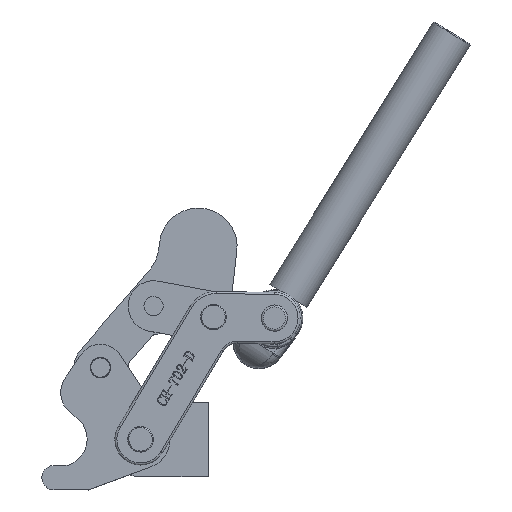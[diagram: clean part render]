
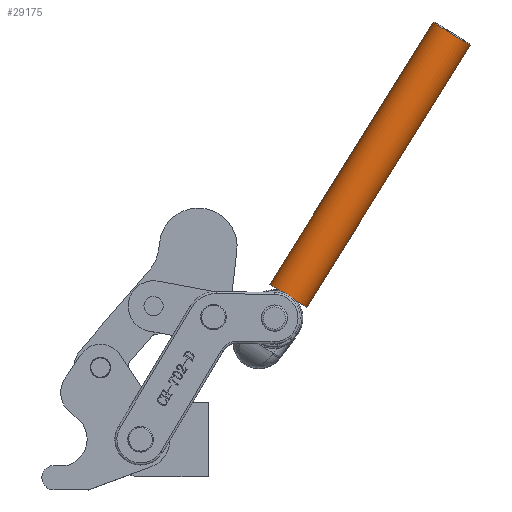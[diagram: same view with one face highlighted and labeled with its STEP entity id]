
A CAD part, top view. The second image highlights one B-rep face of the part: STEP entity #29175.
In plain terms, the highlighted cylindrical face has radius 10.75 mm (diameter 21.5 mm), a full revolution.
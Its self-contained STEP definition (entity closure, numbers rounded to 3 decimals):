
#761=B_SPLINE_CURVE_WITH_KNOTS('',3,(#55389,#55390,#55391,#55392,#55393,
#55394,#55395,#55396,#55397,#55398,#55399,#55400,#55401,#55402),
 .UNSPECIFIED.,.F.,.F.,(4,2,2,2,2,2,4),(-0.427,-0.384,
-0.298,-0.245,-0.197,-0.134,
-0.04),.UNSPECIFIED.);
#762=B_SPLINE_CURVE_WITH_KNOTS('',3,(#55404,#55405,#55406,#55407,#55408,
#55409),.UNSPECIFIED.,.F.,.F.,(4,2,4),(5.418,5.435,
5.58),.UNSPECIFIED.);
#763=B_SPLINE_CURVE_WITH_KNOTS('',3,(#55413,#55414,#55415,#55416,#55417,
#55418),.UNSPECIFIED.,.F.,.F.,(4,2,4),(4.877,5.022,
5.039),.UNSPECIFIED.);
#764=B_SPLINE_CURVE_WITH_KNOTS('',3,(#55420,#55421,#55422,#55423,#55424,
#55425,#55426,#55427),.UNSPECIFIED.,.F.,.F.,(4,2,2,4),(0.04,
0.134,0.197,0.233),.UNSPECIFIED.);
#765=B_SPLINE_CURVE_WITH_KNOTS('',3,(#55430,#55431,#55432,#55433,#55434,
#55435,#55436,#55437,#55438,#55439),.UNSPECIFIED.,.F.,.F.,(4,2,2,2,4),(0.233,
0.245,0.298,0.384,0.427),
 .UNSPECIFIED.);
#766=B_SPLINE_CURVE_WITH_KNOTS('',3,(#55441,#55442,#55443,#55444,#55445,
#55446),.UNSPECIFIED.,.F.,.F.,(4,2,4),(-1.474,-1.456,
-1.312),.UNSPECIFIED.);
#767=B_SPLINE_CURVE_WITH_KNOTS('',3,(#55449,#55450,#55451,#55452,#55453,
#55454),.UNSPECIFIED.,.F.,.F.,(4,2,4),(-2.015,-1.87,
-1.853),.UNSPECIFIED.);
#3067=FACE_OUTER_BOUND('',#4642,.T.);
#4642=EDGE_LOOP('',(#25142,#25143,#25144,#25145,#25146,#25147,#25148,#25149,
#25150,#25151,#25152,#25153,#25154));
#7130=LINE('',#55428,#10035);
#10035=VECTOR('',#37173,10.75);
#11523=CIRCLE('',#31370,10.75);
#11524=CIRCLE('',#31371,10.75);
#11531=CIRCLE('',#31380,10.75);
#11532=CIRCLE('',#31381,10.75);
#13896=VERTEX_POINT('',#55367);
#13897=VERTEX_POINT('',#55368);
#13904=VERTEX_POINT('',#55387);
#13905=VERTEX_POINT('',#55388);
#13906=VERTEX_POINT('',#55403);
#13907=VERTEX_POINT('',#55410);
#13908=VERTEX_POINT('',#55412);
#13909=VERTEX_POINT('',#55419);
#13910=VERTEX_POINT('',#55429);
#13911=VERTEX_POINT('',#55440);
#13912=VERTEX_POINT('',#55447);
#17788=EDGE_CURVE('',#13896,#13897,#11523,.T.);
#17789=EDGE_CURVE('',#13897,#13896,#11524,.T.);
#17798=EDGE_CURVE('',#13904,#13905,#761,.T.);
#17799=EDGE_CURVE('',#13904,#13906,#762,.T.);
#17800=EDGE_CURVE('',#13906,#13907,#11531,.T.);
#17801=EDGE_CURVE('',#13907,#13908,#763,.T.);
#17802=EDGE_CURVE('',#13909,#13908,#764,.F.);
#17803=EDGE_CURVE('',#13909,#13897,#7130,.T.);
#17804=EDGE_CURVE('',#13910,#13909,#765,.F.);
#17805=EDGE_CURVE('',#13910,#13911,#766,.T.);
#17806=EDGE_CURVE('',#13911,#13912,#11532,.T.);
#17807=EDGE_CURVE('',#13912,#13905,#767,.T.);
#25142=ORIENTED_EDGE('',*,*,#17798,.F.);
#25143=ORIENTED_EDGE('',*,*,#17799,.T.);
#25144=ORIENTED_EDGE('',*,*,#17800,.T.);
#25145=ORIENTED_EDGE('',*,*,#17801,.T.);
#25146=ORIENTED_EDGE('',*,*,#17802,.F.);
#25147=ORIENTED_EDGE('',*,*,#17803,.T.);
#25148=ORIENTED_EDGE('',*,*,#17789,.T.);
#25149=ORIENTED_EDGE('',*,*,#17788,.T.);
#25150=ORIENTED_EDGE('',*,*,#17803,.F.);
#25151=ORIENTED_EDGE('',*,*,#17804,.F.);
#25152=ORIENTED_EDGE('',*,*,#17805,.T.);
#25153=ORIENTED_EDGE('',*,*,#17806,.T.);
#25154=ORIENTED_EDGE('',*,*,#17807,.T.);
#28110=CYLINDRICAL_SURFACE('',#31379,10.75);
#29175=ADVANCED_FACE('',(#3067),#28110,.T.);
#31370=AXIS2_PLACEMENT_3D('',#55369,#37149,#37150);
#31371=AXIS2_PLACEMENT_3D('',#55370,#37151,#37152);
#31379=AXIS2_PLACEMENT_3D('',#55386,#37169,#37170);
#31380=AXIS2_PLACEMENT_3D('',#55411,#37171,#37172);
#31381=AXIS2_PLACEMENT_3D('',#55448,#37174,#37175);
#37149=DIRECTION('center_axis',(0.,-1.,0.));
#37150=DIRECTION('ref_axis',(0.,0.,1.));
#37151=DIRECTION('center_axis',(0.,-1.,0.));
#37152=DIRECTION('ref_axis',(0.,0.,1.));
#37169=DIRECTION('center_axis',(0.,-1.,0.));
#37170=DIRECTION('ref_axis',(0.,0.,-1.));
#37171=DIRECTION('center_axis',(0.,1.,0.));
#37172=DIRECTION('ref_axis',(0.,0.,1.));
#37173=DIRECTION('',(0.,1.,0.));
#37174=DIRECTION('center_axis',(0.,1.,0.));
#37175=DIRECTION('ref_axis',(0.,0.,1.));
#55367=CARTESIAN_POINT('',(0.,164.9,-10.75));
#55368=CARTESIAN_POINT('',(0.,164.9,10.75));
#55369=CARTESIAN_POINT('Origin',(0.,164.9,0.));
#55370=CARTESIAN_POINT('Origin',(0.,164.9,0.));
#55386=CARTESIAN_POINT('Origin',(0.,165.4,0.));
#55387=CARTESIAN_POINT('',(-1.913,13.309,-10.579));
#55388=CARTESIAN_POINT('',(1.913,13.309,-10.579));
#55389=CARTESIAN_POINT('Ctrl Pts',(-1.913,13.309,-10.579));
#55390=CARTESIAN_POINT('Ctrl Pts',(-1.775,13.327,-10.603));
#55391=CARTESIAN_POINT('Ctrl Pts',(-1.637,13.343,-10.626));
#55392=CARTESIAN_POINT('Ctrl Pts',(-1.217,13.385,-10.685));
#55393=CARTESIAN_POINT('Ctrl Pts',(-0.933,13.403,-10.713));
#55394=CARTESIAN_POINT('Ctrl Pts',(-0.472,13.421,
-10.741));
#55395=CARTESIAN_POINT('Ctrl Pts',(-0.296,13.425,
-10.747));
#55396=CARTESIAN_POINT('Ctrl Pts',(0.043,13.427,
-10.751));
#55397=CARTESIAN_POINT('Ctrl Pts',(0.204,13.426,-10.749));
#55398=CARTESIAN_POINT('Ctrl Pts',(0.574,13.418,-10.737));
#55399=CARTESIAN_POINT('Ctrl Pts',(0.781,13.41,-10.724));
#55400=CARTESIAN_POINT('Ctrl Pts',(1.298,13.378,-10.676));
#55401=CARTESIAN_POINT('Ctrl Pts',(1.608,13.35,-10.634));
#55402=CARTESIAN_POINT('Ctrl Pts',(1.913,13.309,-10.579));
#55403=CARTESIAN_POINT('',(-3.518,13.,-10.158));
#55404=CARTESIAN_POINT('Ctrl Pts',(-1.913,13.309,-10.579));
#55405=CARTESIAN_POINT('Ctrl Pts',(-1.971,13.301,-10.568));
#55406=CARTESIAN_POINT('Ctrl Pts',(-2.029,13.293,-10.557));
#55407=CARTESIAN_POINT('Ctrl Pts',(-2.572,13.213,-10.45));
#55408=CARTESIAN_POINT('Ctrl Pts',(-3.052,13.117,-10.32));
#55409=CARTESIAN_POINT('Ctrl Pts',(-3.518,13.,-10.158));
#55410=CARTESIAN_POINT('',(-3.518,13.,10.158));
#55411=CARTESIAN_POINT('Origin',(0.,13.,0.));
#55412=CARTESIAN_POINT('',(-1.913,13.309,10.579));
#55413=CARTESIAN_POINT('Ctrl Pts',(-3.518,13.,10.158));
#55414=CARTESIAN_POINT('Ctrl Pts',(-3.052,13.117,10.32));
#55415=CARTESIAN_POINT('Ctrl Pts',(-2.572,13.213,10.45));
#55416=CARTESIAN_POINT('Ctrl Pts',(-2.029,13.293,10.557));
#55417=CARTESIAN_POINT('Ctrl Pts',(-1.971,13.301,10.568));
#55418=CARTESIAN_POINT('Ctrl Pts',(-1.913,13.309,10.579));
#55419=CARTESIAN_POINT('',(0.,13.427,10.75));
#55420=CARTESIAN_POINT('Ctrl Pts',(-1.913,13.309,10.579));
#55421=CARTESIAN_POINT('Ctrl Pts',(-1.608,13.35,10.634));
#55422=CARTESIAN_POINT('Ctrl Pts',(-1.298,13.378,10.676));
#55423=CARTESIAN_POINT('Ctrl Pts',(-0.781,13.41,10.724));
#55424=CARTESIAN_POINT('Ctrl Pts',(-0.574,13.418,
10.737));
#55425=CARTESIAN_POINT('Ctrl Pts',(-0.244,13.425,
10.748));
#55426=CARTESIAN_POINT('Ctrl Pts',(-0.122,13.427,
10.75));
#55427=CARTESIAN_POINT('Ctrl Pts',(0.,13.427,
10.75));
#55428=CARTESIAN_POINT('',(0.,165.4,10.75));
#55429=CARTESIAN_POINT('',(1.913,13.309,10.579));
#55430=CARTESIAN_POINT('Ctrl Pts',(0.,13.427,
10.75));
#55431=CARTESIAN_POINT('Ctrl Pts',(0.04,13.427,
10.75));
#55432=CARTESIAN_POINT('Ctrl Pts',(0.079,13.427,
10.75));
#55433=CARTESIAN_POINT('Ctrl Pts',(0.296,13.425,10.747));
#55434=CARTESIAN_POINT('Ctrl Pts',(0.472,13.421,10.741));
#55435=CARTESIAN_POINT('Ctrl Pts',(0.933,13.403,10.713));
#55436=CARTESIAN_POINT('Ctrl Pts',(1.217,13.385,10.685));
#55437=CARTESIAN_POINT('Ctrl Pts',(1.637,13.343,10.626));
#55438=CARTESIAN_POINT('Ctrl Pts',(1.775,13.327,10.603));
#55439=CARTESIAN_POINT('Ctrl Pts',(1.913,13.309,10.579));
#55440=CARTESIAN_POINT('',(3.518,13.,10.158));
#55441=CARTESIAN_POINT('Ctrl Pts',(1.913,13.309,10.579));
#55442=CARTESIAN_POINT('Ctrl Pts',(1.971,13.301,10.568));
#55443=CARTESIAN_POINT('Ctrl Pts',(2.029,13.293,10.557));
#55444=CARTESIAN_POINT('Ctrl Pts',(2.572,13.213,10.45));
#55445=CARTESIAN_POINT('Ctrl Pts',(3.052,13.117,10.32));
#55446=CARTESIAN_POINT('Ctrl Pts',(3.518,13.,10.158));
#55447=CARTESIAN_POINT('',(3.518,13.,-10.158));
#55448=CARTESIAN_POINT('Origin',(0.,13.,0.));
#55449=CARTESIAN_POINT('Ctrl Pts',(3.518,13.,-10.158));
#55450=CARTESIAN_POINT('Ctrl Pts',(3.052,13.117,-10.32));
#55451=CARTESIAN_POINT('Ctrl Pts',(2.572,13.213,-10.45));
#55452=CARTESIAN_POINT('Ctrl Pts',(2.029,13.293,-10.557));
#55453=CARTESIAN_POINT('Ctrl Pts',(1.971,13.301,-10.568));
#55454=CARTESIAN_POINT('Ctrl Pts',(1.913,13.309,-10.579));
